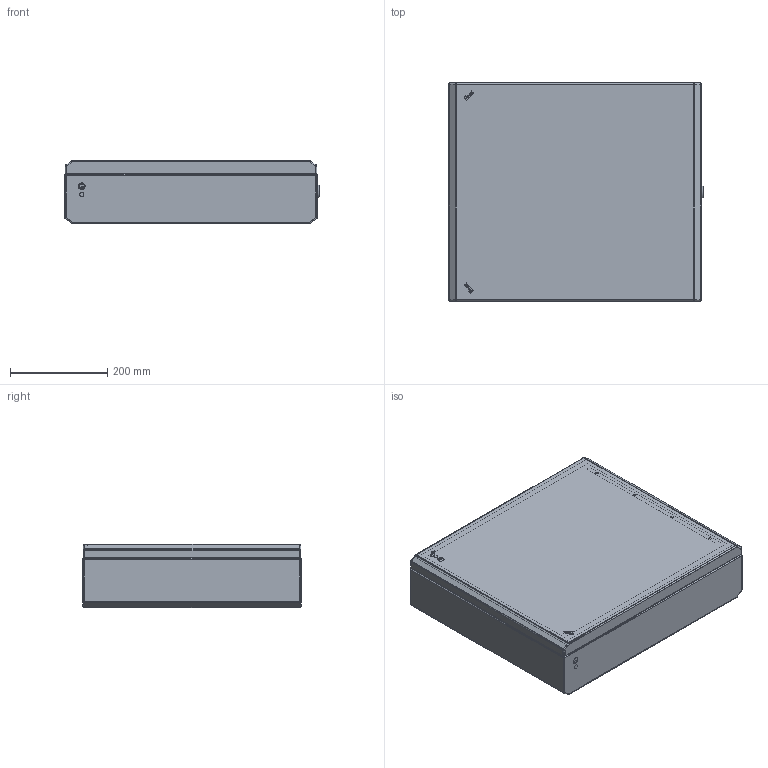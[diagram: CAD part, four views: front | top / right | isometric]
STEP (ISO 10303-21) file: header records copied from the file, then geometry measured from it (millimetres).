
FILE_DESCRIPTION (( 'STEP AP203' ), '1' );
FILE_NAME ('BK54A-COM.step', '2023-09-19T13:19:55', ( '' ), ( '' ), 'SwSTEP 2.0', 'SolidWorks 2021', '' );
FILE_SCHEMA (( 'CONFIG_CONTROL_DESIGN' ));
Length unit declared in the file: millimetre
Products named in the file (19): LOGO_ILINOX; Porte Box BK33-BK75M_POBK54;  1000-U134^ SG215S_Assiemi Box serie BK33-BK75M; Staffa Serraggio Box BK_SSBKH450; 1000-101-GPF_GPD_1^ 1000-U134_ SG215S_Assiemi Box serie BK33-BK75M; 1000-156-01^1000-u183_ SG215S_Assiemi Box serie BK33-BK75M; 1000-03-PG^1000-u183_ SG215S_Assiemi Box serie BK33-BK75M; 1000-277-01PI^1000-u183_ SG215S_Assiemi Box serie BK33-BK75M; 1000-02-RA_1^ 1000-U134_ SG215S_Assiemi Box serie BK33-BK75M; 1000-24^1000-u183_ SG215S_Assiemi Box serie BK33-BK75M; Guarnizione Schiumata 13x6.5_GBK54-GBK54M; Fasciame FABK33- FABK75M_FABK54; 1000-u183^ SG215S_Assiemi Box serie BK33-BK75M; BK54A-COM; OLD-ADMT_ADMT; Parte7^ SG215S_Assiemi Box serie BK33-BK75M; PRM615TL316; Scarpetta Box serie BK;  SG215S^Assiemi Box serie BK33-BK75M_Chiusura_BASSO
Assembly tree (23 placements, depth 4):
  BK54A-COM
    Fasciame FABK33- FABK75M_FABK54
    Porte Box BK33-BK75M_POBK54
    Guarnizione Schiumata 13x6.5_GBK54-GBK54M
    Staffa Serraggio Box BK_SSBKH450
    Scarpetta Box serie BK
     SG215S^Assiemi Box serie BK33-BK75M_Chiusura_BASSO
       1000-U134^ SG215S_Assiemi Box serie BK33-BK75M
        1000-101-GPF_GPD_1^ 1000-U134_ SG215S_Assiemi Box serie BK33-BK75M
        1000-02-RA_1^ 1000-U134_ SG215S_Assiemi Box serie BK33-BK75M
      1000-u183^ SG215S_Assiemi Box serie BK33-BK75M
        1000-156-01^1000-u183_ SG215S_Assiemi Box serie BK33-BK75M
        1000-03-PG^1000-u183_ SG215S_Assiemi Box serie BK33-BK75M
        1000-24^1000-u183_ SG215S_Assiemi Box serie BK33-BK75M
        1000-277-01PI^1000-u183_ SG215S_Assiemi Box serie BK33-BK75M
      Parte7^ SG215S_Assiemi Box serie BK33-BK75M
    OLD-ADMT_ADMT  x2
    LOGO_ILINOX  x2
    PRM615TL316  x4
Bounding box: 524 x 450 x 130.1 mm (x, y, z)
Volume: 1297387.5 mm3; surface area: 1635633.5 mm2
Topology: 41 solids, 42 shells, 1025 faces, 2411 edges, 1474 vertices
Faces by surface type: plane 534, cylinder 362, sphere 42, cone 40, bspline 31, torus 16
Entity records: 30274 total; most frequent: CARTESIAN_POINT 7339, DIRECTION 4537, ORIENTED_EDGE 4171, EDGE_CURVE 2089, AXIS2_PLACEMENT_3D 1690, VERTEX_POINT 1292, VECTOR 1157, LINE 1157
